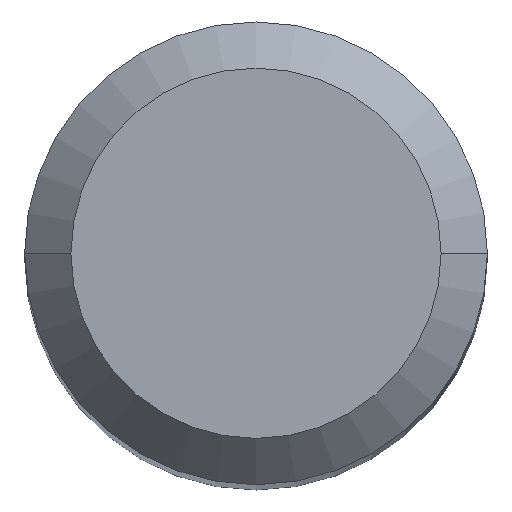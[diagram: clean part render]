
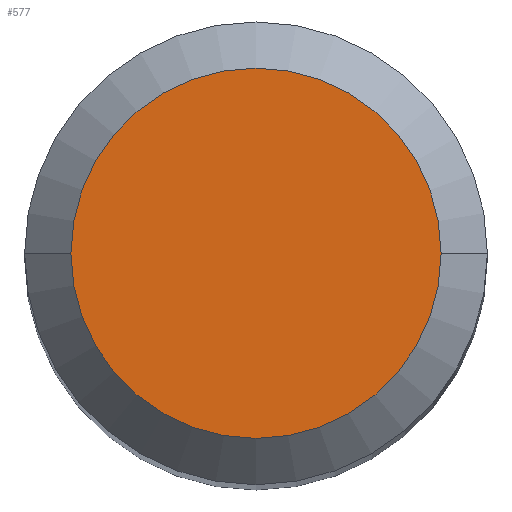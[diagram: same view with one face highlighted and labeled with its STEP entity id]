
A CAD part, top view. The second image highlights one B-rep face of the part: STEP entity #577.
In plain terms, the highlighted planar face has unit normal (0, 0, 1).
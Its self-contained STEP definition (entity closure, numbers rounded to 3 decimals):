
#1 = ORIENTED_EDGE ( 'NONE', *, *, #146, .F. ) ;
#37 = AXIS2_PLACEMENT_3D ( 'NONE', #439, #636, #427 ) ;
#52 = ORIENTED_EDGE ( 'NONE', *, *, #202, .F. ) ;
#146 = EDGE_CURVE ( 'NONE', #637, #559, #566, .T. ) ;
#179 = DIRECTION ( 'NONE',  ( 0., 0., 1. ) ) ;
#192 = CARTESIAN_POINT ( 'NONE',  ( 0., 0., 0. ) ) ;
#202 = EDGE_CURVE ( 'NONE', #559, #637, #374, .T. ) ;
#278 = DIRECTION ( 'NONE',  ( -1., 0., 0. ) ) ;
#343 = DIRECTION ( 'NONE',  ( 0., 0., -1. ) ) ;
#374 = CIRCLE ( 'NONE', #392, 2.4 ) ;
#380 = PLANE ( 'NONE',  #619 ) ;
#390 = CARTESIAN_POINT ( 'NONE',  ( 0., 2.4, 0. ) ) ;
#392 = AXIS2_PLACEMENT_3D ( 'NONE', #192, #343, #278 ) ;
#427 = DIRECTION ( 'NONE',  ( -1., 0., 0. ) ) ;
#434 = FACE_OUTER_BOUND ( 'NONE', #501, .T. ) ;
#439 = CARTESIAN_POINT ( 'NONE',  ( 0., 0., 0. ) ) ;
#501 = EDGE_LOOP ( 'NONE', ( #1, #52 ) ) ;
#520 = CARTESIAN_POINT ( 'NONE',  ( -2.4, 0., 0. ) ) ;
#528 = DIRECTION ( 'NONE',  ( 1., 0., 0. ) ) ;
#538 = CARTESIAN_POINT ( 'NONE',  ( 2.4, 0., 0. ) ) ;
#559 = VERTEX_POINT ( 'NONE', #538 ) ;
#566 = CIRCLE ( 'NONE', #37, 2.4 ) ;
#577 = ADVANCED_FACE ( 'NONE', ( #434 ), #380, .T. ) ;
#619 = AXIS2_PLACEMENT_3D ( 'NONE', #390, #179, #528 ) ;
#636 = DIRECTION ( 'NONE',  ( 0., 0., -1. ) ) ;
#637 = VERTEX_POINT ( 'NONE', #520 ) ;
